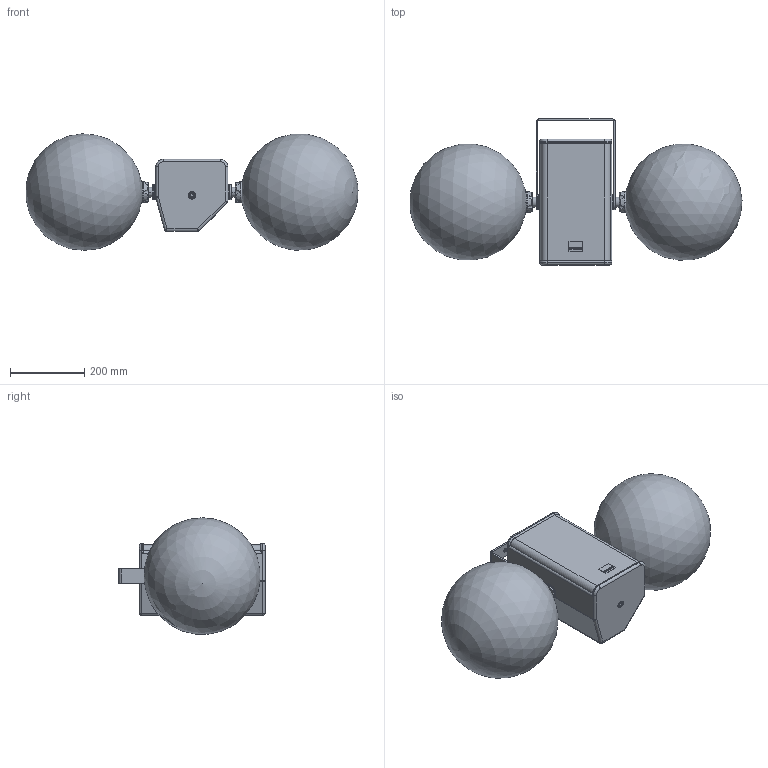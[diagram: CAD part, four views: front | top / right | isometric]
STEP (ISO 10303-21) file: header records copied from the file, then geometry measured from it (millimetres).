
FILE_DESCRIPTION (( 'STEP AP203' ), '1' );
FILE_NAME ('Seeburg_TSNano_Bracket_ver.STEP', '2012-10-17T12:02:29', ( 'Fabian' ), ( '' ), 'SwSTEP 2.0', 'SolidWorks 2009', '' );
FILE_SCHEMA (( 'CONFIG_CONTROL_DESIGN' ));
Length unit declared in the file: millimetre
Products named in the file (2): TSNano_Bracket-ver; Seeburg_TSNano_Bracket_ver
Assembly tree (1 placements, depth 2):
  Seeburg_TSNano_Bracket_ver
    TSNano_Bracket-ver
Bounding box: 894.03 x 393.5 x 313.59 mm (x, y, z)
Volume: 37146483.4 mm3; surface area: 1357010.2 mm2
Topology: 23 solids, 23 shells, 499 faces, 1182 edges, 749 vertices
Faces by surface type: cylinder 204, plane 157, cone 83, torus 42, sphere 13
Entity records: 16261 total; most frequent: CARTESIAN_POINT 4283, DIRECTION 2642, ORIENTED_EDGE 2344, EDGE_CURVE 1172, AXIS2_PLACEMENT_3D 1050, VERTEX_POINT 743, EDGE_LOOP 555, CIRCLE 547
